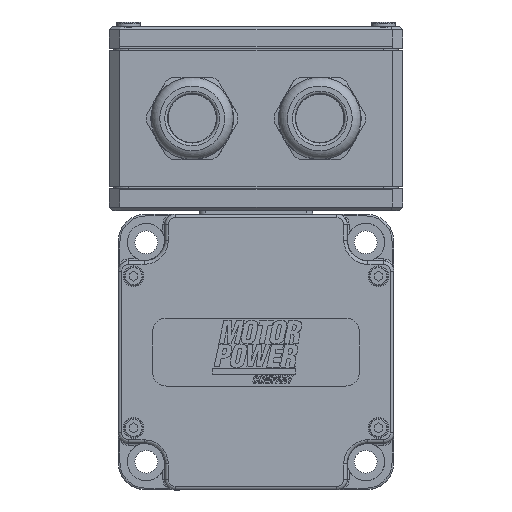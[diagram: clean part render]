
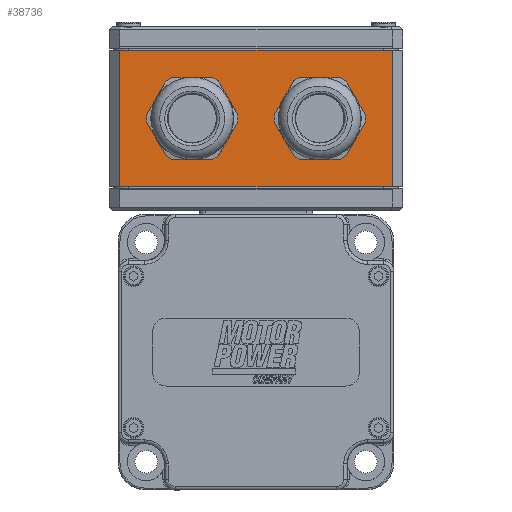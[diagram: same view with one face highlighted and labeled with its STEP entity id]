
A CAD part, front view. The second image highlights one B-rep face of the part: STEP entity #38736.
In plain terms, the highlighted planar face has unit normal (0, -1, 0) as drawn and (1, 0, 0) by its records, which use the part's own axes.
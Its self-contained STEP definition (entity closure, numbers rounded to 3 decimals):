
#2156=LINE('',#73643,#5348);
#2157=LINE('',#73646,#5349);
#2158=LINE('',#73648,#5350);
#2159=LINE('',#73650,#5351);
#5348=VECTOR('',#59075,1000.);
#5349=VECTOR('',#59076,1000.);
#5350=VECTOR('',#59077,1000.);
#5351=VECTOR('',#59078,1000.);
#8268=PLANE('',#52791);
#13383=ORIENTED_EDGE('',*,*,#22710,.T.);
#13384=ORIENTED_EDGE('',*,*,#22711,.T.);
#13385=ORIENTED_EDGE('',*,*,#22712,.T.);
#13386=ORIENTED_EDGE('',*,*,#22713,.T.);
#13387=ORIENTED_EDGE('',*,*,#22714,.F.);
#13388=ORIENTED_EDGE('',*,*,#22715,.T.);
#22710=EDGE_CURVE('',#27707,#27707,#30626,.F.);
#22711=EDGE_CURVE('',#27708,#27708,#30627,.F.);
#22712=EDGE_CURVE('',#27709,#27710,#2156,.T.);
#22713=EDGE_CURVE('',#27710,#27711,#2157,.T.);
#22714=EDGE_CURVE('',#27712,#27711,#2158,.T.);
#22715=EDGE_CURVE('',#27712,#27709,#2159,.T.);
#27707=VERTEX_POINT('',#73640);
#27708=VERTEX_POINT('',#73642);
#27709=VERTEX_POINT('',#73644);
#27710=VERTEX_POINT('',#73645);
#27711=VERTEX_POINT('',#73647);
#27712=VERTEX_POINT('',#73649);
#30626=CIRCLE('',#52792,10.625);
#30627=CIRCLE('',#52793,10.625);
#32786=EDGE_LOOP('',(#13383));
#32787=EDGE_LOOP('',(#13384));
#32788=EDGE_LOOP('',(#13385,#13386,#13387,#13388));
#35805=FACE_BOUND('',#32786,.T.);
#35806=FACE_BOUND('',#32787,.T.);
#35807=FACE_BOUND('',#32788,.T.);
#38736=ADVANCED_FACE('',(#35805,#35806,#35807),#8268,.F.);
#52791=AXIS2_PLACEMENT_3D('',#73638,#59069,#59070);
#52792=AXIS2_PLACEMENT_3D('',#73639,#59071,#59072);
#52793=AXIS2_PLACEMENT_3D('',#73641,#59073,#59074);
#59069=DIRECTION('',(-1.,0.,0.));
#59070=DIRECTION('',(0.,0.,1.));
#59071=DIRECTION('',(1.,0.,0.));
#59072=DIRECTION('',(0.,0.,-1.));
#59073=DIRECTION('',(1.,0.,0.));
#59074=DIRECTION('',(0.,0.,-1.));
#59075=DIRECTION('',(0.,1.,0.));
#59076=DIRECTION('',(0.,0.,1.));
#59077=DIRECTION('',(0.,1.,0.));
#59078=DIRECTION('',(0.,0.,-1.));
#73638=CARTESIAN_POINT('',(42.5,-42.5,39.5));
#73639=CARTESIAN_POINT('',(42.5,18.5,19.75));
#73640=CARTESIAN_POINT('',(42.5,18.5,9.125));
#73641=CARTESIAN_POINT('',(42.5,-18.5,19.75));
#73642=CARTESIAN_POINT('',(42.5,-18.5,9.125));
#73643=CARTESIAN_POINT('',(42.5,-42.5,0.));
#73644=CARTESIAN_POINT('',(42.5,-39.5,0.));
#73645=CARTESIAN_POINT('',(42.5,39.5,0.));
#73646=CARTESIAN_POINT('',(42.5,39.5,39.5));
#73647=CARTESIAN_POINT('',(42.5,39.5,39.5));
#73648=CARTESIAN_POINT('',(42.5,-42.5,39.5));
#73649=CARTESIAN_POINT('',(42.5,-39.5,39.5));
#73650=CARTESIAN_POINT('',(42.5,-39.5,39.5));
